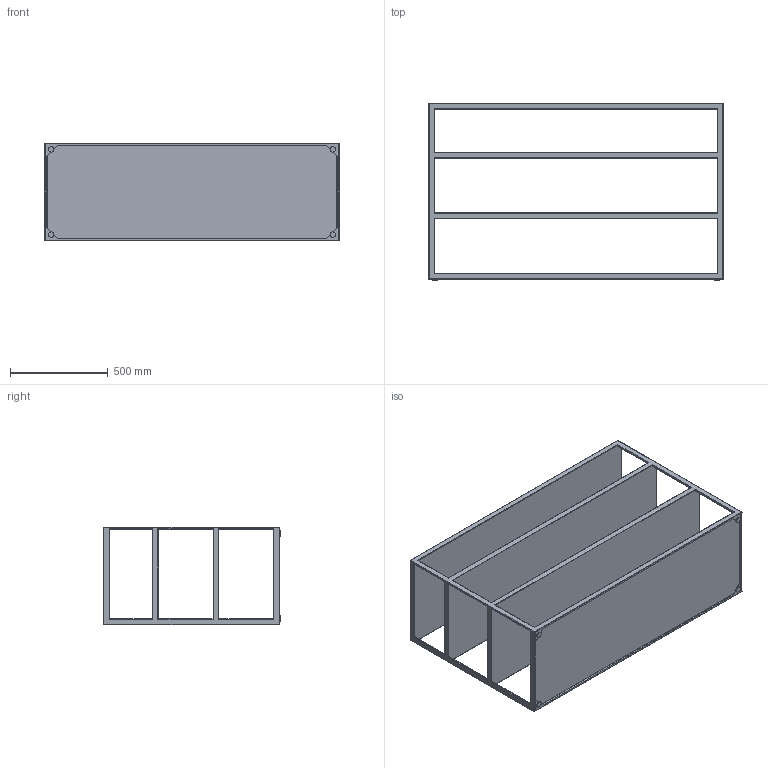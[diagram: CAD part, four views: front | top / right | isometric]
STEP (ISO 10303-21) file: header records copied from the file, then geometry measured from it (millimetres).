
FILE_DESCRIPTION(/* description */ (''),/* implementation_level */ '2;1');
FILE_NAME(/* name */ 'C:\INVENTOR\Workspace\# ARKITEKT FILER\Open Kitchen\OK Side Board 150\Open Kitchen Side Board 150 No Teak.stp',/* time_stamp */ '2020-05-05T08:43:36+02:00',/* author */ ('Röshults'),/* organization */ (''),/* preprocessor_version */ 'ST-DEVELOPER v17.2',/* originating_system */ 'Autodesk Inventor 2019',/* authorisation */ '');
FILE_SCHEMA (('AUTOMOTIVE_DESIGN { 1 0 10303 214 3 1 1 }'));
Length unit declared in the file: millimetre
Products named in the file (3): Open Kitchen Side Board 150 No Teak; Open Kitchen Side Board 150; Open Hylla 150 Arkitekt
Assembly tree (2 placements, depth 2):
  Open Kitchen Side Board 150 No Teak
    Open Kitchen Side Board 150
    Open Hylla 150 Arkitekt
Bounding box: 1505 x 905 x 500 mm (x, y, z)
Volume: 85497534.3 mm3; surface area: 7012465.7 mm2
Topology: 2 solids, 2 shells, 221 faces, 528 edges, 308 vertices
Faces by surface type: cylinder 116, plane 89, sphere 16
Full cylindrical faces by diameter (mm): 28 x4
Entity records: 6412 total; most frequent: DIRECTION 1144, CARTESIAN_POINT 1062, ORIENTED_EDGE 1056, EDGE_CURVE 528, AXIS2_PLACEMENT_3D 390, LINE 364, VECTOR 364, VERTEX_POINT 308
